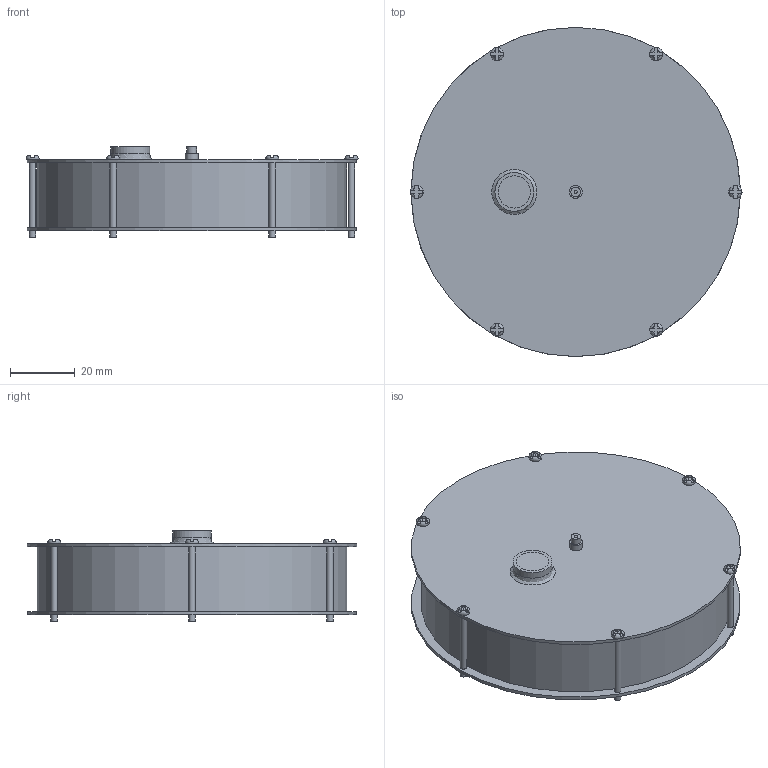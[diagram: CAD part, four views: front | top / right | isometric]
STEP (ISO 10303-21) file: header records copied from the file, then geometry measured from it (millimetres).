
FILE_DESCRIPTION(('FreeCAD Model'),'2;1');
FILE_NAME( '/home/lukasm/FreeCADProjects/StirlingEngine/StirlingEngine.step', '2020-07-11T13:11:26',('Author'),(''), 'Open CASCADE STEP processor 7.4','FreeCAD','Unknown');
FILE_SCHEMA(('AUTOMOTIVE_DESIGN { 1 0 10303 214 1 1 1 1 }'));
Length unit declared in the file: millimetre
Products named in the file (1): BooleanFragments
Bounding box: 102.86 x 102 x 28 mm (x, y, z)
Volume: 162104.8 mm3; surface area: 66966.7 mm2
Topology: 4 solids, 4 shells, 150 faces, 362 edges, 237 vertices
Faces by surface type: plane 109, cylinder 34, revolution 7
Full cylindrical faces by diameter (mm): 1 x2, 2 x12, 3 x3, 4 x1, 10 x2, 12 x1, 94 x2, 96 x1, 102 x2
Entity records: 26440 total; most frequent: CARTESIAN_POINT 19521, DIRECTION 1141, ORIENTED_EDGE 724, PCURVE 724, DEFINITIONAL_REPRESENTATION 724, LINE 497, VECTOR 497, EDGE_CURVE 362
